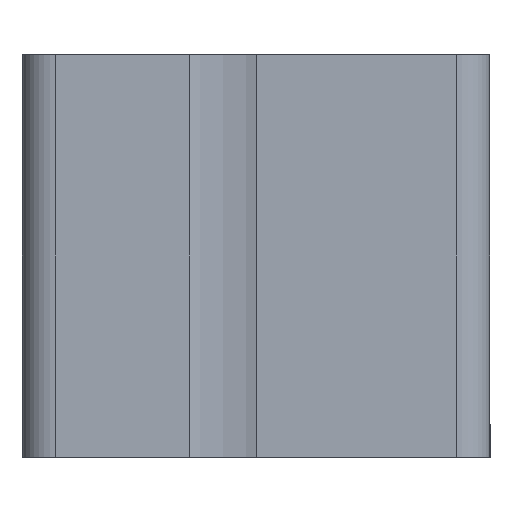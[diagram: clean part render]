
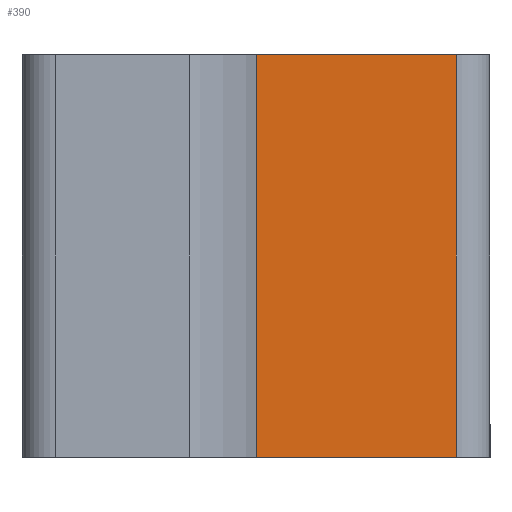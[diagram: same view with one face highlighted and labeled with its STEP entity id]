
A CAD part, front view. The second image highlights one B-rep face of the part: STEP entity #390.
In plain terms, the highlighted planar face has unit normal (0, -1, 0).
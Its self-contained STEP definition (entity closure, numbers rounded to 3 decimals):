
#34=PLANE('',#450);
#51=FACE_OUTER_BOUND('',#79,.T.);
#79=EDGE_LOOP('',(#337,#338,#339,#340));
#94=LINE('',#596,#126);
#109=LINE('',#652,#141);
#113=LINE('',#667,#145);
#114=LINE('',#669,#146);
#126=VECTOR('',#478,10.);
#141=VECTOR('',#531,10.);
#145=VECTOR('',#551,10.);
#146=VECTOR('',#554,10.);
#180=VERTEX_POINT('',#593);
#181=VERTEX_POINT('',#595);
#202=VERTEX_POINT('',#649);
#203=VERTEX_POINT('',#651);
#217=EDGE_CURVE('',#180,#181,#94,.T.);
#245=EDGE_CURVE('',#202,#203,#109,.T.);
#253=EDGE_CURVE('',#203,#180,#113,.T.);
#254=EDGE_CURVE('',#181,#202,#114,.T.);
#337=ORIENTED_EDGE('',*,*,#253,.F.);
#338=ORIENTED_EDGE('',*,*,#245,.F.);
#339=ORIENTED_EDGE('',*,*,#254,.F.);
#340=ORIENTED_EDGE('',*,*,#217,.F.);
#390=ADVANCED_FACE('',(#51),#34,.F.);
#450=AXIS2_PLACEMENT_3D('',#668,#552,#553);
#478=DIRECTION('',(-1.,0.,0.));
#531=DIRECTION('',(1.,0.,0.));
#551=DIRECTION('',(0.,0.,-1.));
#552=DIRECTION('center_axis',(0.,1.,0.));
#553=DIRECTION('ref_axis',(1.,0.,0.));
#554=DIRECTION('',(0.,0.,1.));
#593=CARTESIAN_POINT('',(6.967,-17.008,-1.));
#595=CARTESIAN_POINT('',(1.,-17.008,-1.));
#596=CARTESIAN_POINT('',(-7.033,-17.008,-1.));
#649=CARTESIAN_POINT('',(1.,-17.008,11.));
#651=CARTESIAN_POINT('',(6.967,-17.008,11.));
#652=CARTESIAN_POINT('',(-7.033,-17.008,11.));
#667=CARTESIAN_POINT('',(6.967,-17.008,5.));
#668=CARTESIAN_POINT('Origin',(-14.066,-17.008,10.));
#669=CARTESIAN_POINT('',(1.,-17.008,5.));
